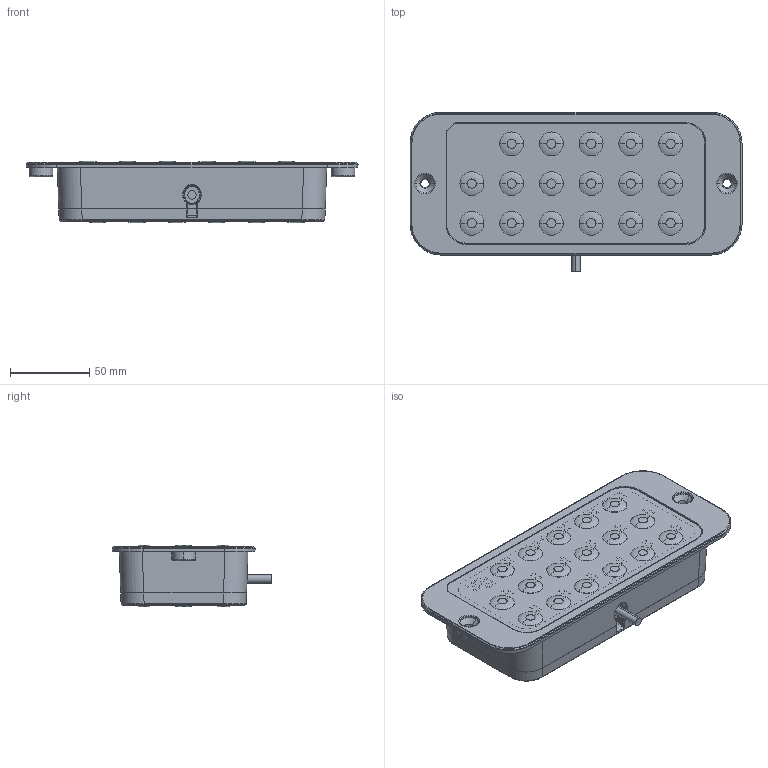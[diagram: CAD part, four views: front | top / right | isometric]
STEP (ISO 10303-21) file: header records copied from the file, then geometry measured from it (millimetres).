
FILE_DESCRIPTION (( 'STEP AP203' ), '1' );
FILE_NAME ('3D_TNP10.STEP', '2021-07-06T09:43:28', ( '' ), ( '' ), 'SwSTEP 2.0', 'SolidWorks 2015', '' );
FILE_SCHEMA (( 'CONFIG_CONTROL_DESIGN' ));
Length unit declared in the file: millimetre
Products named in the file (6): 3D_TNP10; TNP2-SR; ﾍ竄ﾈ?ｰ誥np10; κな?ｰ誥np10; TNP10狟屳; TNP10奻屳
Assembly tree (5 placements, depth 2):
  3D_TNP10
    TNP10奻屳
    TNP10狟屳
    ﾍ竄ﾈ?ｰ誥np10
    κな?ｰ誥np10
    TNP2-SR
Bounding box: 208.92 x 100.46 x 38.5 mm (x, y, z)
Volume: 120212.7 mm3; surface area: 149541.8 mm2
Topology: 5 solids, 5 shells, 2168 faces, 5948 edges, 3854 vertices
Faces by surface type: plane 1087, cylinder 692, torus 209, bspline 110, cone 40, sphere 30
Entity records: 94415 total; most frequent: CARTESIAN_POINT 38742, ORIENTED_EDGE 11896, DIRECTION 11214, EDGE_CURVE 5948, VERTEX_POINT 3854, AXIS2_PLACEMENT_3D 3797, VECTOR 3620, LINE 3620
